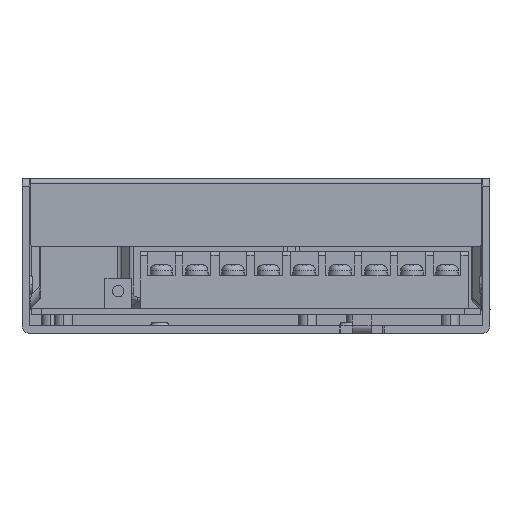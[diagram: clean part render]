
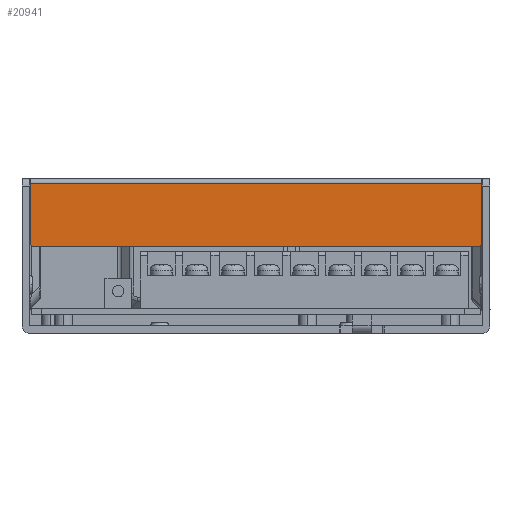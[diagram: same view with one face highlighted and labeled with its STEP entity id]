
A CAD part, left-side view. The second image highlights one B-rep face of the part: STEP entity #20941.
In plain terms, the highlighted planar face has unit normal (-1, 0, 0).
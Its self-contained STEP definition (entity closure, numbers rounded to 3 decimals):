
#17680=DIRECTION('',(0.,0.,1.));
#17681=VECTOR('',#17680,119.6);
#17682=CARTESIAN_POINT('',(-209.,-31.8,-119.8));
#17683=LINE('',#17682,#17681);
#17688=CARTESIAN_POINT('',(-209.,-16.,-118.8));
#17689=DIRECTION('',(1.,0.,0.));
#17690=DIRECTION('',(0.,0.,-1.));
#17691=AXIS2_PLACEMENT_3D('',#17688,#17689,#17690);
#17693=DIRECTION('',(0.,0.,1.));
#17694=VECTOR('',#17693,117.6);
#17695=CARTESIAN_POINT('',(-209.,-15.,-118.8));
#17696=LINE('',#17695,#17694);
#17697=CARTESIAN_POINT('',(-209.,-16.,-1.2));
#17698=DIRECTION('',(1.,0.,0.));
#17699=DIRECTION('',(0.,1.,0.));
#17700=AXIS2_PLACEMENT_3D('',#17697,#17698,#17699);
#17702=DIRECTION('',(0.,-1.,0.));
#17703=VECTOR('',#17702,15.8);
#17704=CARTESIAN_POINT('',(-209.,-16.,-0.2));
#17705=LINE('',#17704,#17703);
#17706=DIRECTION('',(0.,1.,0.));
#17707=VECTOR('',#17706,15.8);
#17708=CARTESIAN_POINT('',(-209.,-31.8,-119.8));
#17709=LINE('',#17708,#17707);
#20323=CARTESIAN_POINT('',(-209.,-16.,-119.8));
#20324=CARTESIAN_POINT('',(-209.,-15.,-118.8));
#20325=VERTEX_POINT('',#20323);
#20326=VERTEX_POINT('',#20324);
#20327=CARTESIAN_POINT('',(-209.,-15.,-1.2));
#20328=VERTEX_POINT('',#20327);
#20329=CARTESIAN_POINT('',(-209.,-16.,-0.2));
#20330=VERTEX_POINT('',#20329);
#20331=CARTESIAN_POINT('',(-209.,-31.8,-0.2));
#20332=VERTEX_POINT('',#20331);
#20333=CARTESIAN_POINT('',(-209.,-31.8,-119.8));
#20334=VERTEX_POINT('',#20333);
#20923=CARTESIAN_POINT('',(-209.,-33.,-0.2));
#20924=DIRECTION('',(-1.,0.,0.));
#20925=DIRECTION('',(0.,0.,1.));
#20926=AXIS2_PLACEMENT_3D('',#20923,#20924,#20925);
#20927=PLANE('',#20926);
#20929=ORIENTED_EDGE('',*,*,#20928,.T.);
#20931=ORIENTED_EDGE('',*,*,#20930,.T.);
#20933=ORIENTED_EDGE('',*,*,#20932,.T.);
#20935=ORIENTED_EDGE('',*,*,#20934,.T.);
#20936=ORIENTED_EDGE('',*,*,#20914,.F.);
#20938=ORIENTED_EDGE('',*,*,#20937,.T.);
#20939=EDGE_LOOP('',(#20929,#20931,#20933,#20935,#20936,#20938));
#20940=FACE_OUTER_BOUND('',#20939,.F.);
#17692=CIRCLE('',#17691,1.);
#17701=CIRCLE('',#17700,1.);
#20914=EDGE_CURVE('',#20334,#20332,#17683,.T.);
#20928=EDGE_CURVE('',#20325,#20326,#17692,.T.);
#20930=EDGE_CURVE('',#20326,#20328,#17696,.T.);
#20932=EDGE_CURVE('',#20328,#20330,#17701,.T.);
#20934=EDGE_CURVE('',#20330,#20332,#17705,.T.);
#20937=EDGE_CURVE('',#20334,#20325,#17709,.T.);
#20941=ADVANCED_FACE('',(#20940),#20927,.T.);
